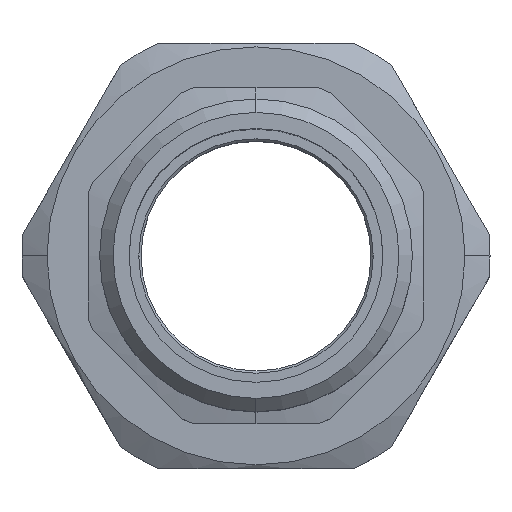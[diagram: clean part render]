
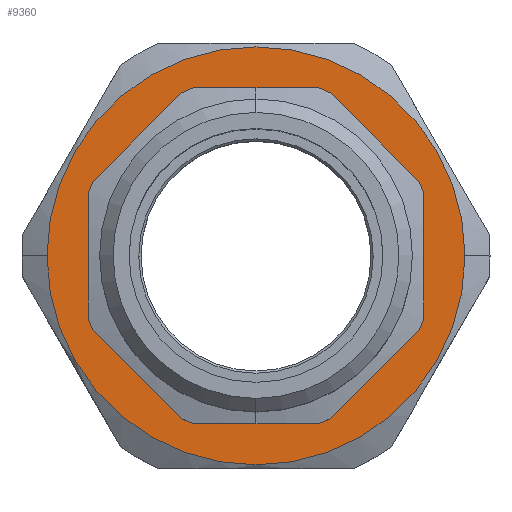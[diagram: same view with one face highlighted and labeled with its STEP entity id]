
A CAD part, top view. The second image highlights one B-rep face of the part: STEP entity #9360.
In plain terms, the highlighted planar face has unit normal (0, 0, 1).
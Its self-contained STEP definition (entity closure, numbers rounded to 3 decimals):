
#8970=CARTESIAN_POINT('',(81.458,68.111,-38.772));
#8980=DIRECTION('',(0.,0.,-1.));
#8990=DIRECTION('',(-1.,0.,0.));
#9000=AXIS2_PLACEMENT_3D('',#8970,#8980,#8990);
#9010=PLANE('',#9000);
#9020=CARTESIAN_POINT('',(50.033,68.111,-38.772));
#9030=DIRECTION('',(0.,0.,1.));
#9040=DIRECTION('',(0.,1.,0.));
#9050=AXIS2_PLACEMENT_3D('',#9020,#9030,#9040);
#9060=CIRCLE('',#9050,21.8);
#9070=CARTESIAN_POINT('',(28.233,68.111,-38.772));
#9080=VERTEX_POINT('',#9070);
#9090=CARTESIAN_POINT('',(50.033,46.311,-38.772));
#9100=VERTEX_POINT('',#9090);
#9110=EDGE_CURVE('',#9080,#9100,#9060,.T.);
#9120=ORIENTED_EDGE('',*,*,#9110,.F.);
#9130=CARTESIAN_POINT('',(50.033,89.911,-38.772));
#9140=VERTEX_POINT('',#9130);
#9150=EDGE_CURVE('',#9100,#9140,#9060,.T.);
#9160=ORIENTED_EDGE('',*,*,#9150,.F.);
#9170=EDGE_CURVE('',#9140,#9080,#9060,.T.);
#9180=ORIENTED_EDGE('',*,*,#9170,.F.);
#9190=EDGE_LOOP('',(#9180,#9160,#9120));
#9200=FACE_BOUND('',#9190,.T.);
#9210=CARTESIAN_POINT('',(50.033,68.111,-38.772));
#9220=DIRECTION('',(0.,0.,-1.));
#9230=DIRECTION('',(-1.,0.,0.));
#9240=AXIS2_PLACEMENT_3D('',#9210,#9220,#9230);
#9250=CIRCLE('',#9240,28.);
#9260=CARTESIAN_POINT('',(22.033,68.111,-38.772));
#9270=VERTEX_POINT('',#9260);
#9280=CARTESIAN_POINT('',(78.033,68.111,-38.772));
#9290=VERTEX_POINT('',#9280);
#9300=EDGE_CURVE('',#9270,#9290,#9250,.T.);
#9310=ORIENTED_EDGE('',*,*,#9300,.F.);
#9320=EDGE_CURVE('',#9290,#9270,#9250,.T.);
#9330=ORIENTED_EDGE('',*,*,#9320,.F.);
#9340=EDGE_LOOP('',(#9330,#9310));
#9350=FACE_OUTER_BOUND('',#9340,.T.);
#9360=ADVANCED_FACE('',(#9200,#9350),#9010,.F.);
